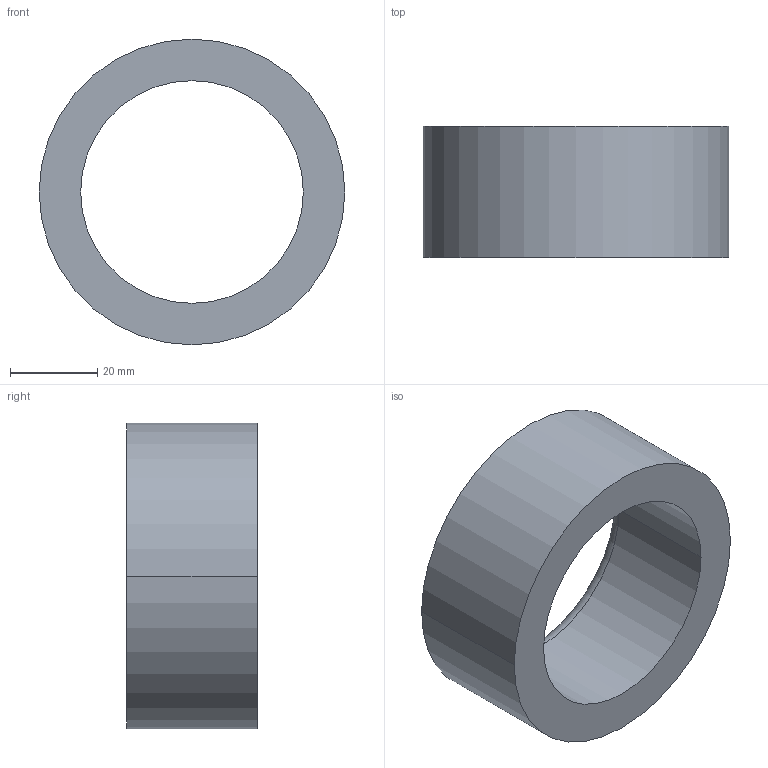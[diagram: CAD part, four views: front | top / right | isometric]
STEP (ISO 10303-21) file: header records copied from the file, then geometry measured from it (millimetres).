
FILE_DESCRIPTION (( 'STEP AP203' ), '1' );
FILE_NAME ('30800.WPP70L51.0.step', '2019-01-23T22:59:58', ( '' ), ( '' ), 'SwSTEP 2.0', 'SolidWorks 2017', '' );
FILE_SCHEMA (( 'CONFIG_CONTROL_DESIGN' ));
Length unit declared in the file: millimetre
Products named in the file (1): 30800.WPP70L51.0
Bounding box: 70 x 30 x 70 mm (x, y, z)
Volume: 53734.8 mm3; surface area: 14780 mm2
Topology: 1 solids, 1 shells, 8 faces, 16 edges, 10 vertices
Faces by surface type: cylinder 4, torus 2, plane 2
Entity records: 297 total; most frequent: DIRECTION 46, CARTESIAN_POINT 35, ORIENTED_EDGE 32, AXIS2_PLACEMENT_3D 21, EDGE_CURVE 16, CIRCLE 12, EDGE_LOOP 10, VERTEX_POINT 10
